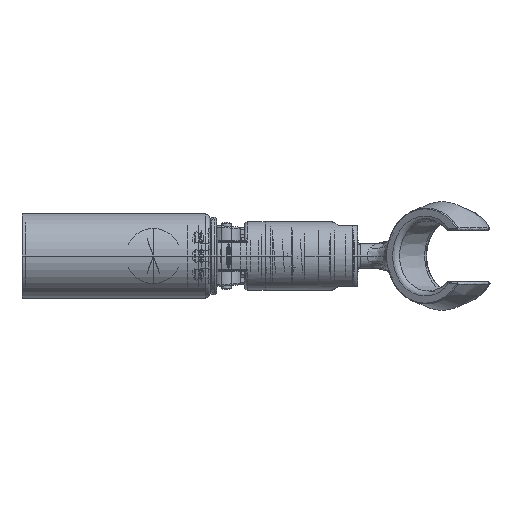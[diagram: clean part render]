
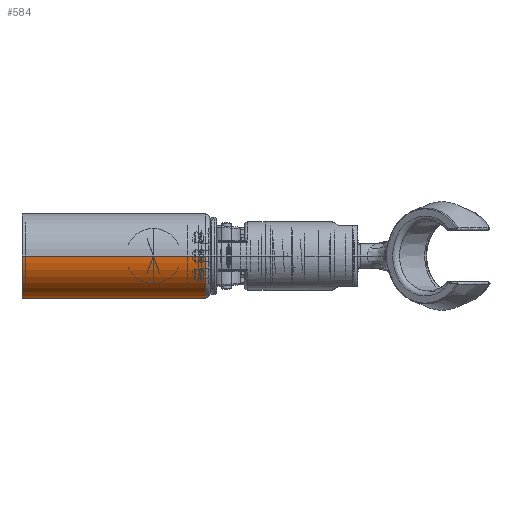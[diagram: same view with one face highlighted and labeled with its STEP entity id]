
A CAD part, front view. The second image highlights one B-rep face of the part: STEP entity #584.
In plain terms, the highlighted cylindrical face has radius 13 mm (diameter 26 mm), a partial arc.
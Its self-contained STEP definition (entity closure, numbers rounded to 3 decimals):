
#26=CARTESIAN_POINT('',(40.5,9.235,-9.15));
#27=CARTESIAN_POINT('',(40.923,9.235,-9.15));
#28=CARTESIAN_POINT('',(41.772,9.291,-9.093));
#29=CARTESIAN_POINT('',(43.101,9.567,-8.807));
#30=CARTESIAN_POINT('',(44.353,9.985,-8.335));
#31=CARTESIAN_POINT('',(45.519,10.496,-7.688));
#32=CARTESIAN_POINT('',(46.529,11.02,-6.918));
#33=CARTESIAN_POINT('',(47.335,11.484,-6.115));
#34=CARTESIAN_POINT('',(47.962,11.87,-5.323));
#35=CARTESIAN_POINT('',(48.44,12.178,-4.573));
#36=CARTESIAN_POINT('',(48.813,12.424,-3.849));
#37=CARTESIAN_POINT('',(49.107,12.624,-3.136));
#38=CARTESIAN_POINT('',(49.344,12.786,-2.392));
#39=CARTESIAN_POINT('',(49.52,12.909,-1.608));
#40=CARTESIAN_POINT('',(49.627,12.984,-0.803));
#41=CARTESIAN_POINT('',(49.65,13.,-0.268));
#42=CARTESIAN_POINT('',(49.65,13.,0.));
#44=CARTESIAN_POINT('',(31.35,13.,0.));
#45=CARTESIAN_POINT('',(31.35,13.,-0.27));
#46=CARTESIAN_POINT('',(31.374,12.983,-0.809));
#47=CARTESIAN_POINT('',(31.482,12.907,-1.621));
#48=CARTESIAN_POINT('',(31.661,12.783,-2.411));
#49=CARTESIAN_POINT('',(31.902,12.617,-3.161));
#50=CARTESIAN_POINT('',(32.2,12.415,-3.879));
#51=CARTESIAN_POINT('',(32.578,12.166,-4.604));
#52=CARTESIAN_POINT('',(33.06,11.856,-5.354));
#53=CARTESIAN_POINT('',(33.691,11.469,-6.143));
#54=CARTESIAN_POINT('',(34.498,11.005,-6.942));
#55=CARTESIAN_POINT('',(35.51,10.482,-7.707));
#56=CARTESIAN_POINT('',(36.673,9.975,-8.347));
#57=CARTESIAN_POINT('',(37.919,9.561,-8.813));
#58=CARTESIAN_POINT('',(39.24,9.29,-9.095));
#59=CARTESIAN_POINT('',(40.082,9.235,-9.15));
#60=CARTESIAN_POINT('',(40.5,9.235,-9.15));
#62=CARTESIAN_POINT('',(56.5,0.,0.));
#63=DIRECTION('',(-1.,0.,0.));
#64=DIRECTION('',(0.,1.,0.));
#65=AXIS2_PLACEMENT_3D('',#62,#63,#64);
#90=DIRECTION('',(-1.,0.,0.));
#91=VECTOR('',#90,6.85);
#92=CARTESIAN_POINT('',(56.5,13.,0.));
#93=LINE('',#92,#91);
#99=DIRECTION('',(-1.,0.,0.));
#100=VECTOR('',#99,56.5);
#101=CARTESIAN_POINT('',(56.5,-13.,0.));
#102=LINE('',#101,#100);
#103=DIRECTION('',(-1.,0.,0.));
#104=VECTOR('',#103,31.35);
#105=CARTESIAN_POINT('',(31.35,13.,0.));
#106=LINE('',#105,#104);
#135=CARTESIAN_POINT('',(0.,0.,0.));
#136=DIRECTION('',(-1.,0.,0.));
#137=DIRECTION('',(0.,1.,0.));
#138=AXIS2_PLACEMENT_3D('',#135,#136,#137);
#453=CARTESIAN_POINT('',(0.,13.,0.));
#454=CARTESIAN_POINT('',(0.,-13.,0.));
#455=VERTEX_POINT('',#453);
#456=VERTEX_POINT('',#454);
#457=CARTESIAN_POINT('',(56.5,13.,0.));
#458=CARTESIAN_POINT('',(56.5,-13.,0.));
#459=VERTEX_POINT('',#457);
#460=VERTEX_POINT('',#458);
#523=VERTEX_POINT('',#26);
#524=VERTEX_POINT('',#42);
#525=VERTEX_POINT('',#44);
#564=CARTESIAN_POINT('',(60.9,0.,0.));
#565=DIRECTION('',(-1.,0.,0.));
#566=DIRECTION('',(0.,1.,0.));
#567=AXIS2_PLACEMENT_3D('',#564,#565,#566);
#568=CYLINDRICAL_SURFACE('',#567,13.);
#570=ORIENTED_EDGE('',*,*,#569,.F.);
#572=ORIENTED_EDGE('',*,*,#571,.F.);
#574=ORIENTED_EDGE('',*,*,#573,.T.);
#576=ORIENTED_EDGE('',*,*,#575,.T.);
#578=ORIENTED_EDGE('',*,*,#577,.F.);
#579=ORIENTED_EDGE('',*,*,#554,.F.);
#581=ORIENTED_EDGE('',*,*,#580,.T.);
#582=EDGE_LOOP('',(#570,#572,#574,#576,#578,#579,#581));
#583=FACE_OUTER_BOUND('',#582,.F.);
#584=ADVANCED_FACE('',(#583),#568,.T.);
#43=B_SPLINE_CURVE_WITH_KNOTS('',3,(#26,#27,#28,#29,#30,#31,#32,#33,#34,#35,#36,
#37,#38,#39,#40,#41,#42),.UNSPECIFIED.,.F.,.F.,(4,1,1,1,1,1,1,1,1,1,1,1,1,1,4),(
0.,0.071,0.143,0.214,0.286,
0.357,0.429,0.5,0.571,0.643,
0.714,0.786,0.857,0.929,1.),
.UNSPECIFIED.);
#61=B_SPLINE_CURVE_WITH_KNOTS('',3,(#44,#45,#46,#47,#48,#49,#50,#51,#52,#53,#54,
#55,#56,#57,#58,#59,#60),.UNSPECIFIED.,.F.,.F.,(4,1,1,1,1,1,1,1,1,1,1,1,1,1,4),(
0.,0.071,0.143,0.214,0.286,
0.357,0.429,0.5,0.571,0.643,
0.714,0.786,0.857,0.929,1.),
.UNSPECIFIED.);
#66=CIRCLE('',#65,13.);
#139=CIRCLE('',#138,13.);
#554=EDGE_CURVE('',#459,#460,#66,.T.);
#569=EDGE_CURVE('',#523,#524,#43,.T.);
#571=EDGE_CURVE('',#525,#523,#61,.T.);
#573=EDGE_CURVE('',#525,#455,#106,.T.);
#575=EDGE_CURVE('',#455,#456,#139,.T.);
#577=EDGE_CURVE('',#460,#456,#102,.T.);
#580=EDGE_CURVE('',#459,#524,#93,.T.);
